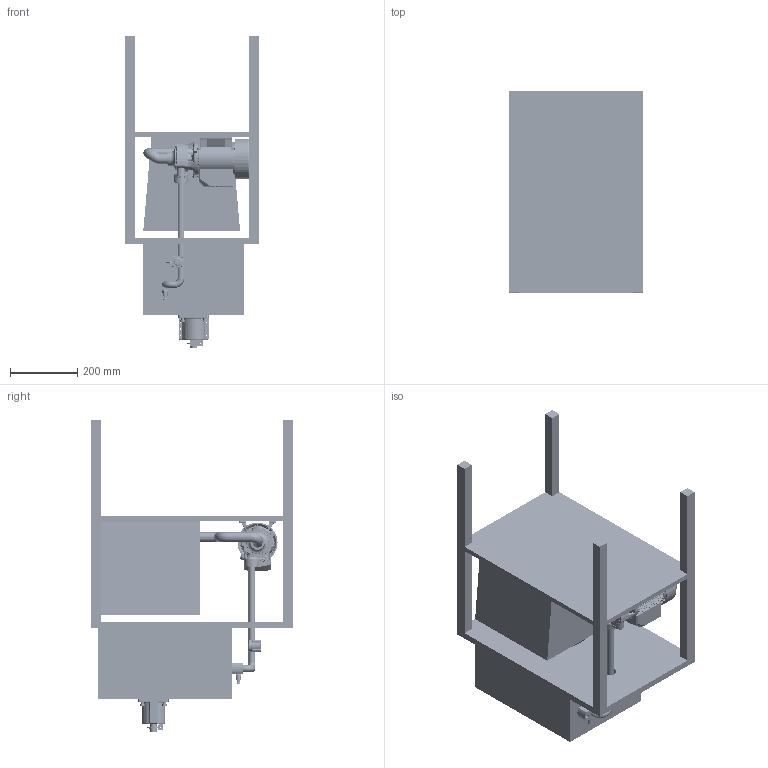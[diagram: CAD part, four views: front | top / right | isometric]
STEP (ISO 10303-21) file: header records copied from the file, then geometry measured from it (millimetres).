
FILE_DESCRIPTION(/* description */ (''),/* implementation_level */ '2;1');
FILE_NAME(/* name */ 'Assieme_banco_pelton_radiali4.stp',/* time_stamp */ '2025-04-03T20:35:57+02:00',/* author */ ('R5800u'),/* organization */ (''),/* preprocessor_version */ 'ST-DEVELOPER v20',/* originating_system */ 'Autodesk Inventor 2025',/* authorisation */ '');
FILE_SCHEMA (('AUTOMOTIVE_DESIGN { 1 0 10303 214 3 1 1 }'));
Products named in the file (82): Assieme_banco_turgo; Assieme_turgo_frame; Assieme2; frame_superficie; SOLID; tslot-20x20-3; tslot-20x20-2; tslot-20x20-3_MIR1; SNSD20x20; SNSD20x20_MIR; tslot-20x20-2_MIR1; lastra_top; lastra_laterale1; lastra_laterale3; lastra_laterale2; tslot 2040; tavolo; PERIPHERAL WATER PUMP; CASING WITH WOUND STATOR; TERMINAL COVER; BOLT(4); FAN COVER; FAIRLEAD; PUMP CASING; CHARGE PLUG; CAPACITOR; SHAFT; FAN; TAPON TRANSPARENTE; ROTOR; PUMP SUPPORT; IMPELLER; DRIVING CAP; O RING (2); BOLT(3); EMPAQUE UNION; DROPS GUARD; EMPAQUE2-3; EMPAQUE2-2; MECHANICAL SEAL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
Assembly tree (198 placements, depth 4):
  Assieme_banco_turgo
    Assieme_turgo_frame
      Assieme2
        frame_superficie
        SOLID  x4
        tslot-20x20-3  x2
        tslot-20x20-2  x2
        tslot-20x20-3_MIR1  x2
        SNSD20x20  x8
        SNSD20x20_MIR  x8
        tslot-20x20-2_MIR1  x2
      lastra_top
      lastra_laterale1  x2
      lastra_laterale3
      lastra_laterale2
      tslot 2040
    %3% BS 290 - SKF 61804  x2
    tavolo
    PERIPHERAL WATER PUMP
      CASING WITH WOUND STATOR
      TERMINAL COVER
      BOLT(4)  x2
      FAN COVER
      FAIRLEAD
      PUMP CASING
      CHARGE PLUG
      CAPACITOR
      SHAFT
      FAN
      TAPON TRANSPARENTE  x2
      ROTOR
      PUMP SUPPORT
      IMPELLER
      DRIVING CAP
      O RING (2)
      BOLT(3)  x3
      BOLT(2)  x6
      EMPAQUE UNION
      DROPS GUARD
        EMPAQUE2-3
        EMPAQUE2-2
      MECHANICAL SEAL
        PARTE 2 EMPAQUE
        PARTE 1 EMPAQUE
        PARTE 3 EMPAQUE
        PARTE 4 EMPAQUE
        WASHER
      SNAP RING
      BEARING  x2
      COIL
        PLACA ENBOBINADO  x56
        Pieza3^COIL
        Pieza1^COIL
      CABLE PRESSER
      SCREW  x3
      O RING
      KEY
      RESORTE
      SPLIT RING
    bacinella
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Bounding box: 400 x 600 x 928 mm (x, y, z)
Volume: 15900318 mm3; surface area: 5090217.5 mm2
Topology: 1686 solids, 1686 shells, 22781 faces, 56027 edges, 36614 vertices
Faces by surface type: cylinder 10287, plane 9781, bspline 1692, torus 470, cone 432, sphere 119
Full cylindrical faces by diameter (mm): 0.08 x19, 0.5 x1, 0.596 x1440, 1 x4, 1.3 x75, 1.5 x2, 1.8 x1, 2 x2, 2.65 x2, 2.69 x3, 2.7 x1, 2.8 x11, 2.845 x76, 3 x6, 3.2 x17, 3.242 x2, 3.4 x114, 3.9 x3, 4 x4, 4.2 x12, 4.3 x12, 4.35 x2, 4.5 x6, 4.6 x2, 5 x29, 5.2 x2, 5.3 x4, 5.563 x4, 5.7 x4, 6.3 x1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
Entity records: 381234 total; most frequent: CARTESIAN_POINT 155907, DIRECTION 46787, ORIENTED_EDGE 41896, EDGE_CURVE 20948, AXIS2_PLACEMENT_3D 18230, VERTEX_POINT 13621, EDGE_LOOP 11671, FACE_OUTER_BOUND 10678
